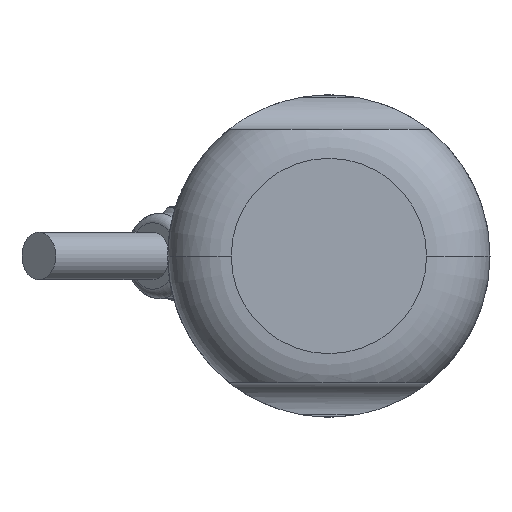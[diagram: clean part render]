
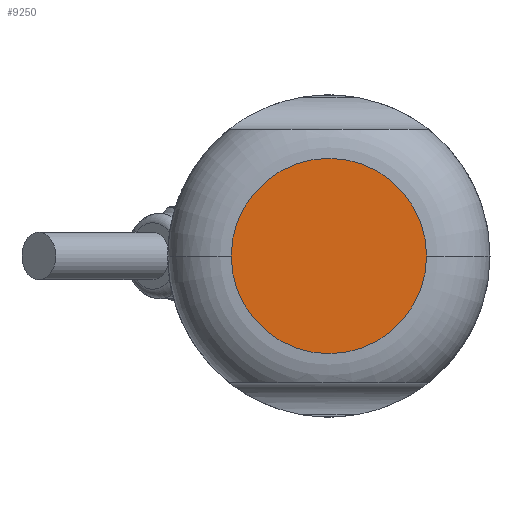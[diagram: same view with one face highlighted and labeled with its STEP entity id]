
A CAD part, left-side view. The second image highlights one B-rep face of the part: STEP entity #9250.
In plain terms, the highlighted planar face has unit normal (-1, 0, 0).
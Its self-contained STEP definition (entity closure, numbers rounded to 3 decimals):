
#145 = CARTESIAN_POINT ( 'NONE',  ( -30.209, -24.621, 0. ) ) ;
#193 = DIRECTION ( 'NONE',  ( 0., 1., 0. ) ) ;
#630 = EDGE_CURVE ( 'NONE', #5514, #8093, #6602, .T. ) ;
#788 = ORIENTED_EDGE ( 'NONE', *, *, #7798, .T. ) ;
#1217 = CARTESIAN_POINT ( 'NONE',  ( -30.209, -24.621, 0. ) ) ;
#1900 = AXIS2_PLACEMENT_3D ( 'NONE', #145, #8861, #193 ) ;
#1976 = DIRECTION ( 'NONE',  ( -1., 0., 0. ) ) ;
#2480 = AXIS2_PLACEMENT_3D ( 'NONE', #1217, #1976, #4903 ) ;
#3130 = CIRCLE ( 'NONE', #1900, 15.4 ) ;
#4381 = CARTESIAN_POINT ( 'NONE',  ( -30.209, -24.621, 0. ) ) ;
#4528 = DIRECTION ( 'NONE',  ( 1., 0., 0. ) ) ;
#4903 = DIRECTION ( 'NONE',  ( 0., -1., 0. ) ) ;
#5055 = DIRECTION ( 'NONE',  ( 0., 1., 0. ) ) ;
#5274 = CARTESIAN_POINT ( 'NONE',  ( -30.209, -40.021, 0. ) ) ;
#5493 = EDGE_LOOP ( 'NONE', ( #7732, #788 ) ) ;
#5514 = VERTEX_POINT ( 'NONE', #5274 ) ;
#5812 = FACE_OUTER_BOUND ( 'NONE', #5493, .T. ) ;
#6602 = CIRCLE ( 'NONE', #2480, 15.4 ) ;
#7203 = CARTESIAN_POINT ( 'NONE',  ( -30.209, -9.221, 0. ) ) ;
#7287 = PLANE ( 'NONE',  #8286 ) ;
#7732 = ORIENTED_EDGE ( 'NONE', *, *, #630, .T. ) ;
#7798 = EDGE_CURVE ( 'NONE', #8093, #5514, #3130, .T. ) ;
#8093 = VERTEX_POINT ( 'NONE', #7203 ) ;
#8286 = AXIS2_PLACEMENT_3D ( 'NONE', #4381, #4528, #5055 ) ;
#8861 = DIRECTION ( 'NONE',  ( -1., 0., 0. ) ) ;
#9250 = ADVANCED_FACE ( 'NONE', ( #5812 ), #7287, .F. ) ;
